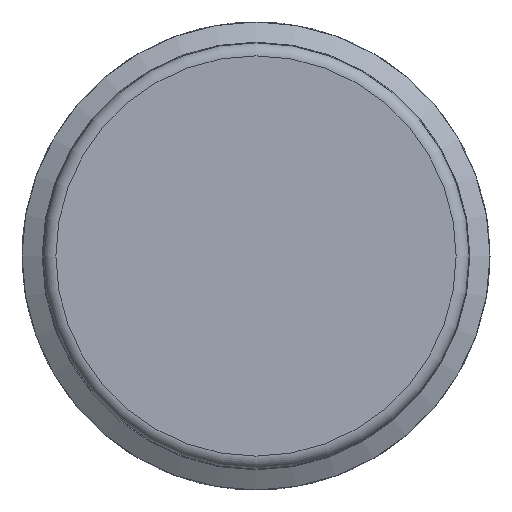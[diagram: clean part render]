
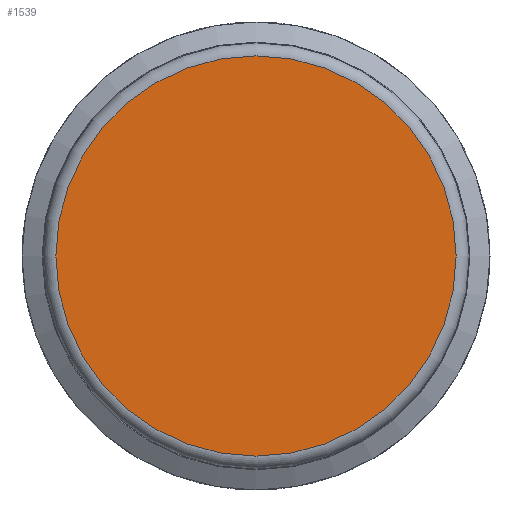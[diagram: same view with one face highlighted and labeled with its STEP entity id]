
A CAD part, left-side view. The second image highlights one B-rep face of the part: STEP entity #1539.
In plain terms, the highlighted planar face has unit normal (-1, 0, 0).
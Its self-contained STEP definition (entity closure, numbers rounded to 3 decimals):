
#80=PLANE('',#1693);
#336=CIRCLE('',#1688,7.698);
#337=CIRCLE('',#1689,7.698);
#438=FACE_OUTER_BOUND('',#525,.T.);
#525=EDGE_LOOP('',(#1229,#1230));
#696=VERTEX_POINT('',#3015);
#697=VERTEX_POINT('',#3017);
#888=EDGE_CURVE('',#696,#697,#336,.T.);
#889=EDGE_CURVE('',#697,#696,#337,.T.);
#1229=ORIENTED_EDGE('',*,*,#889,.F.);
#1230=ORIENTED_EDGE('',*,*,#888,.F.);
#1539=ADVANCED_FACE('',(#438),#80,.F.);
#1688=AXIS2_PLACEMENT_3D('',#3018,#2013,#2014);
#1689=AXIS2_PLACEMENT_3D('',#3019,#2015,#2016);
#1693=AXIS2_PLACEMENT_3D('',#3026,#2024,#2025);
#2013=DIRECTION('center_axis',(1.,0.,0.));
#2014=DIRECTION('ref_axis',(0.,0.,
1.));
#2015=DIRECTION('center_axis',(1.,0.,0.));
#2016=DIRECTION('ref_axis',(0.,0.,
1.));
#2024=DIRECTION('center_axis',(1.,0.,0.));
#2025=DIRECTION('ref_axis',(0.,0.,
1.));
#3015=CARTESIAN_POINT('',(-42.173,-1.635,-7.698));
#3017=CARTESIAN_POINT('',(-42.173,-9.333,0.));
#3018=CARTESIAN_POINT('Origin',(-42.173,-1.635,0.));
#3019=CARTESIAN_POINT('Origin',(-42.173,-1.635,0.));
#3026=CARTESIAN_POINT('Origin',(-42.173,-1.635,4.127));
